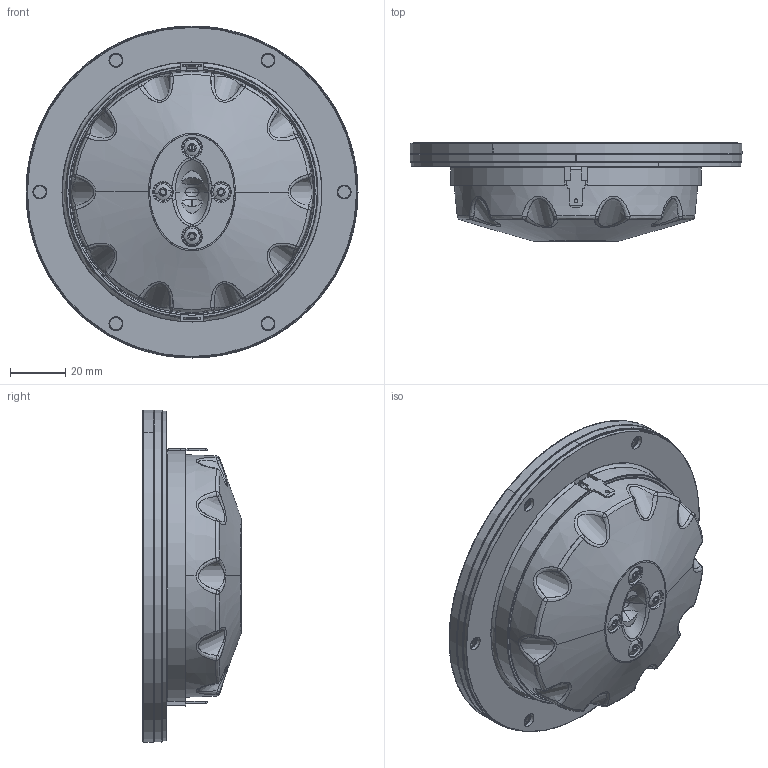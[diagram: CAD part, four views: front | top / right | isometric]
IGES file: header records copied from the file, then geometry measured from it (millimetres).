
Start section: SolidWorks IGES file using analytic representation for surfaces
Global section: file name: W:\TT\D34\WEB D3404_552000\D3404-552000.IGS; native system: SolidWorks 2019; preprocessor: SolidWorks 2019; author: mhn; date: 201215.065153; units: millimetre
Bounding box: 120 x 35.45 x 120 mm (x, y, z)
Surface area: 50433 mm2 (no closed solid volume)
Topology: 0 solids, 0 shells, 848 faces, 13021 edges, 12987 vertices
Faces by surface type: revolution 442, bspline 406
